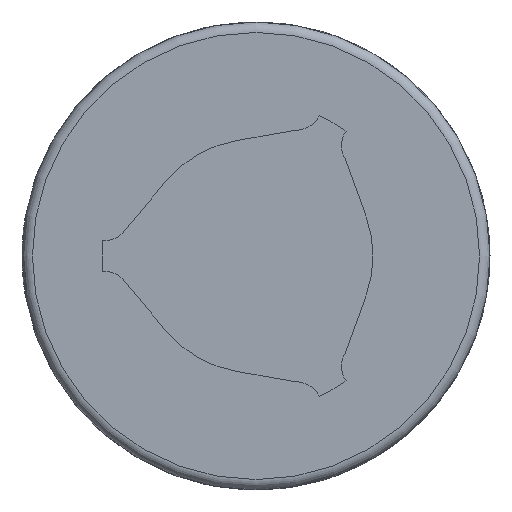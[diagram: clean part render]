
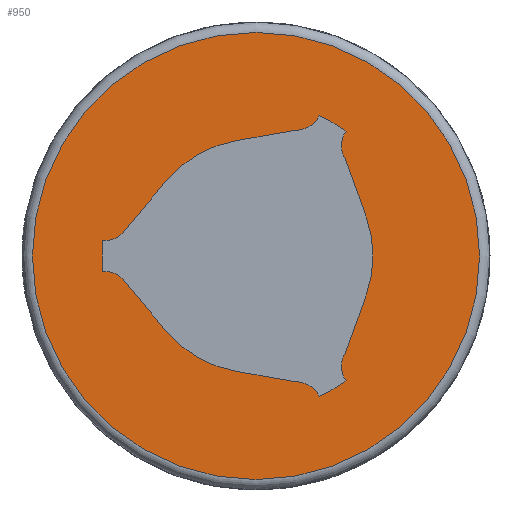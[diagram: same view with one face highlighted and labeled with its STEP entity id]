
A CAD part, left-side view. The second image highlights one B-rep face of the part: STEP entity #950.
In plain terms, the highlighted planar face has unit normal (-1, 0, 0).
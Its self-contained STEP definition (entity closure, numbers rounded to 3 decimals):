
#48=PLANE('',#1057);
#92=LINE('',#1550,#162);
#93=LINE('',#1559,#163);
#94=LINE('',#1563,#164);
#95=LINE('',#1571,#165);
#96=LINE('',#1575,#166);
#97=LINE('',#1583,#167);
#162=VECTOR('',#1255,1000.);
#163=VECTOR('',#1262,1000.);
#164=VECTOR('',#1265,1000.);
#165=VECTOR('',#1272,1000.);
#166=VECTOR('',#1275,1000.);
#167=VECTOR('',#1282,1000.);
#310=ORIENTED_EDGE('',*,*,#528,.F.);
#311=ORIENTED_EDGE('',*,*,#529,.T.);
#312=ORIENTED_EDGE('',*,*,#530,.F.);
#313=ORIENTED_EDGE('',*,*,#531,.T.);
#314=ORIENTED_EDGE('',*,*,#532,.F.);
#315=ORIENTED_EDGE('',*,*,#533,.T.);
#316=ORIENTED_EDGE('',*,*,#534,.T.);
#317=ORIENTED_EDGE('',*,*,#535,.T.);
#318=ORIENTED_EDGE('',*,*,#536,.F.);
#319=ORIENTED_EDGE('',*,*,#537,.T.);
#320=ORIENTED_EDGE('',*,*,#538,.F.);
#321=ORIENTED_EDGE('',*,*,#539,.T.);
#322=ORIENTED_EDGE('',*,*,#540,.T.);
#323=ORIENTED_EDGE('',*,*,#541,.T.);
#324=ORIENTED_EDGE('',*,*,#542,.F.);
#325=ORIENTED_EDGE('',*,*,#543,.T.);
#326=ORIENTED_EDGE('',*,*,#544,.F.);
#327=ORIENTED_EDGE('',*,*,#545,.T.);
#328=ORIENTED_EDGE('',*,*,#546,.T.);
#528=EDGE_CURVE('',#646,#646,#728,.T.);
#529=EDGE_CURVE('',#647,#648,#92,.T.);
#530=EDGE_CURVE('',#649,#648,#729,.T.);
#531=EDGE_CURVE('',#649,#650,#730,.T.);
#532=EDGE_CURVE('',#651,#650,#731,.T.);
#533=EDGE_CURVE('',#651,#652,#93,.T.);
#534=EDGE_CURVE('',#652,#653,#732,.T.);
#535=EDGE_CURVE('',#653,#654,#94,.T.);
#536=EDGE_CURVE('',#655,#654,#733,.T.);
#537=EDGE_CURVE('',#655,#656,#734,.T.);
#538=EDGE_CURVE('',#657,#656,#735,.T.);
#539=EDGE_CURVE('',#657,#658,#95,.T.);
#540=EDGE_CURVE('',#658,#659,#736,.T.);
#541=EDGE_CURVE('',#659,#660,#96,.T.);
#542=EDGE_CURVE('',#661,#660,#737,.T.);
#543=EDGE_CURVE('',#661,#662,#738,.T.);
#544=EDGE_CURVE('',#663,#662,#739,.T.);
#545=EDGE_CURVE('',#663,#664,#97,.T.);
#546=EDGE_CURVE('',#664,#647,#740,.T.);
#646=VERTEX_POINT('',#1549);
#647=VERTEX_POINT('',#1551);
#648=VERTEX_POINT('',#1552);
#649=VERTEX_POINT('',#1554);
#650=VERTEX_POINT('',#1556);
#651=VERTEX_POINT('',#1558);
#652=VERTEX_POINT('',#1560);
#653=VERTEX_POINT('',#1562);
#654=VERTEX_POINT('',#1564);
#655=VERTEX_POINT('',#1566);
#656=VERTEX_POINT('',#1568);
#657=VERTEX_POINT('',#1570);
#658=VERTEX_POINT('',#1572);
#659=VERTEX_POINT('',#1574);
#660=VERTEX_POINT('',#1576);
#661=VERTEX_POINT('',#1578);
#662=VERTEX_POINT('',#1580);
#663=VERTEX_POINT('',#1582);
#664=VERTEX_POINT('',#1584);
#728=CIRCLE('',#1058,21.5);
#729=CIRCLE('',#1059,2.48);
#730=CIRCLE('',#1060,14.8);
#731=CIRCLE('',#1061,2.48);
#732=CIRCLE('',#1062,11.25);
#733=CIRCLE('',#1063,2.48);
#734=CIRCLE('',#1064,14.8);
#735=CIRCLE('',#1065,2.48);
#736=CIRCLE('',#1066,11.25);
#737=CIRCLE('',#1067,2.48);
#738=CIRCLE('',#1068,14.8);
#739=CIRCLE('',#1069,2.48);
#740=CIRCLE('',#1070,11.25);
#783=EDGE_LOOP('',(#310));
#784=EDGE_LOOP('',(#311,#312,#313,#314,#315,#316,#317,#318,#319,#320,#321,
#322,#323,#324,#325,#326,#327,#328));
#851=FACE_BOUND('',#783,.T.);
#852=FACE_BOUND('',#784,.T.);
#950=ADVANCED_FACE('',(#851,#852),#48,.F.);
#1057=AXIS2_PLACEMENT_3D('',#1547,#1251,#1252);
#1058=AXIS2_PLACEMENT_3D('',#1548,#1253,#1254);
#1059=AXIS2_PLACEMENT_3D('',#1553,#1256,#1257);
#1060=AXIS2_PLACEMENT_3D('',#1555,#1258,#1259);
#1061=AXIS2_PLACEMENT_3D('',#1557,#1260,#1261);
#1062=AXIS2_PLACEMENT_3D('',#1561,#1263,#1264);
#1063=AXIS2_PLACEMENT_3D('',#1565,#1266,#1267);
#1064=AXIS2_PLACEMENT_3D('',#1567,#1268,#1269);
#1065=AXIS2_PLACEMENT_3D('',#1569,#1270,#1271);
#1066=AXIS2_PLACEMENT_3D('',#1573,#1273,#1274);
#1067=AXIS2_PLACEMENT_3D('',#1577,#1276,#1277);
#1068=AXIS2_PLACEMENT_3D('',#1579,#1278,#1279);
#1069=AXIS2_PLACEMENT_3D('',#1581,#1280,#1281);
#1070=AXIS2_PLACEMENT_3D('',#1585,#1283,#1284);
#1251=DIRECTION('',(1.,0.,0.));
#1252=DIRECTION('',(0.,1.,0.));
#1253=DIRECTION('',(1.,0.,0.));
#1254=DIRECTION('',(0.,1.,0.));
#1255=DIRECTION('',(0.,-0.985,0.174));
#1256=DIRECTION('',(1.,0.,0.));
#1257=DIRECTION('',(0.,0.,-1.));
#1258=DIRECTION('',(1.,0.,0.));
#1259=DIRECTION('',(0.,0.,-1.));
#1260=DIRECTION('',(1.,0.,0.));
#1261=DIRECTION('',(0.,0.,-1.));
#1262=DIRECTION('',(0.,-0.342,-0.94));
#1263=DIRECTION('',(1.,0.,0.));
#1264=DIRECTION('',(0.,0.,-1.));
#1265=DIRECTION('',(0.,0.342,-0.94));
#1266=DIRECTION('',(1.,0.,0.));
#1267=DIRECTION('',(0.,0.,-1.));
#1268=DIRECTION('',(1.,0.,0.));
#1269=DIRECTION('',(0.,0.,-1.));
#1270=DIRECTION('',(1.,0.,0.));
#1271=DIRECTION('',(0.,0.,-1.));
#1272=DIRECTION('',(0.,0.985,0.174));
#1273=DIRECTION('',(1.,0.,0.));
#1274=DIRECTION('',(0.,0.,-1.));
#1275=DIRECTION('',(0.,0.643,0.766));
#1276=DIRECTION('',(1.,0.,0.));
#1277=DIRECTION('',(0.,0.,-1.));
#1278=DIRECTION('',(1.,0.,0.));
#1279=DIRECTION('',(0.,0.,-1.));
#1280=DIRECTION('',(1.,0.,0.));
#1281=DIRECTION('',(0.,0.,-1.));
#1282=DIRECTION('',(0.,-0.643,0.766));
#1283=DIRECTION('',(1.,0.,0.));
#1284=DIRECTION('',(0.,0.,-1.));
#1547=CARTESIAN_POINT('',(0.,0.,0.));
#1548=CARTESIAN_POINT('',(0.,0.,0.));
#1549=CARTESIAN_POINT('',(0.,21.5,0.));
#1550=CARTESIAN_POINT('',(0.,1.954,11.079));
#1551=CARTESIAN_POINT('',(0.,1.954,11.079));
#1552=CARTESIAN_POINT('',(0.,-3.805,12.094));
#1553=CARTESIAN_POINT('',(0.,-3.833,14.574));
#1554=CARTESIAN_POINT('',(0.,-6.068,13.499));
#1555=CARTESIAN_POINT('',(0.,0.,0.));
#1556=CARTESIAN_POINT('',(0.,-8.656,12.005));
#1557=CARTESIAN_POINT('',(0.,-10.705,10.607));
#1558=CARTESIAN_POINT('',(0.,-8.572,9.342));
#1559=CARTESIAN_POINT('',(0.,-8.572,9.342));
#1560=CARTESIAN_POINT('',(0.,-10.572,3.848));
#1561=CARTESIAN_POINT('',(0.,0.,0.));
#1562=CARTESIAN_POINT('',(0.,-10.572,-3.848));
#1563=CARTESIAN_POINT('',(0.,-10.572,-3.848));
#1564=CARTESIAN_POINT('',(0.,-8.572,-9.342));
#1565=CARTESIAN_POINT('',(0.,-10.705,-10.607));
#1566=CARTESIAN_POINT('',(0.,-8.656,-12.005));
#1567=CARTESIAN_POINT('',(0.,0.,0.));
#1568=CARTESIAN_POINT('',(0.,-6.068,-13.499));
#1569=CARTESIAN_POINT('',(0.,-3.833,-14.574));
#1570=CARTESIAN_POINT('',(0.,-3.805,-12.094));
#1571=CARTESIAN_POINT('',(0.,-3.805,-12.094));
#1572=CARTESIAN_POINT('',(0.,1.954,-11.079));
#1573=CARTESIAN_POINT('',(0.,0.,0.));
#1574=CARTESIAN_POINT('',(0.,8.618,-7.231));
#1575=CARTESIAN_POINT('',(0.,8.618,-7.231));
#1576=CARTESIAN_POINT('',(0.,12.377,-2.752));
#1577=CARTESIAN_POINT('',(0.,14.538,-3.967));
#1578=CARTESIAN_POINT('',(0.,14.724,-1.494));
#1579=CARTESIAN_POINT('',(0.,0.,0.));
#1580=CARTESIAN_POINT('',(0.,14.724,1.494));
#1581=CARTESIAN_POINT('',(0.,14.538,3.967));
#1582=CARTESIAN_POINT('',(0.,12.377,2.752));
#1583=CARTESIAN_POINT('',(0.,12.377,2.752));
#1584=CARTESIAN_POINT('',(0.,8.618,7.231));
#1585=CARTESIAN_POINT('',(0.,0.,0.));
